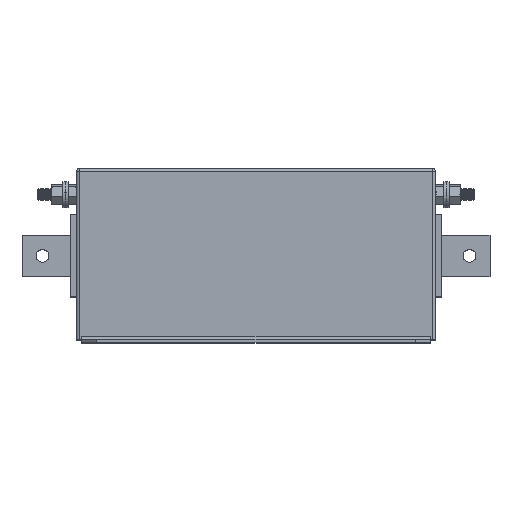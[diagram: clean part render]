
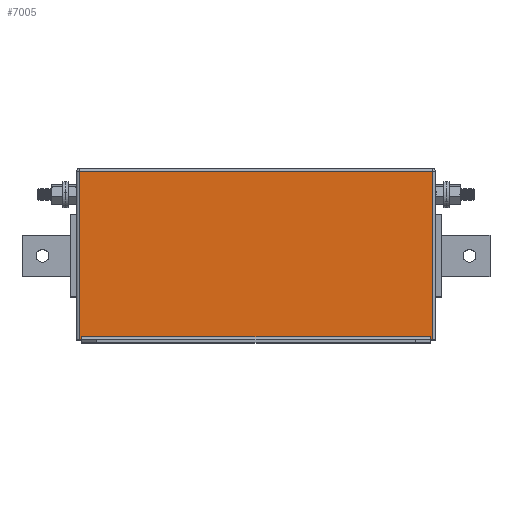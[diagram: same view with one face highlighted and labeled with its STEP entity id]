
A CAD part, top view. The second image highlights one B-rep face of the part: STEP entity #7005.
In plain terms, the highlighted planar face has unit normal (0, 0, 1).
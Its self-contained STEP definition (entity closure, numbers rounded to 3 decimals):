
#66 = DIRECTION ( 'NONE',  ( 1., 0., 0. ) ) ;
#435 = VERTEX_POINT ( 'NONE', #4796 ) ;
#477 = CARTESIAN_POINT ( 'NONE',  ( 0., 167., 0. ) ) ;
#497 = LINE ( 'NONE', #7734, #1102 ) ;
#531 = LINE ( 'NONE', #8329, #2301 ) ;
#807 = CARTESIAN_POINT ( 'NONE',  ( 347., 164., 0. ) ) ;
#889 = ORIENTED_EDGE ( 'NONE', *, *, #4419, .T. ) ;
#1102 = VECTOR ( 'NONE', #6898, 1000. ) ;
#1423 = ORIENTED_EDGE ( 'NONE', *, *, #4421, .T. ) ;
#1464 = CARTESIAN_POINT ( 'NONE',  ( 345., 3., 0. ) ) ;
#1775 = AXIS2_PLACEMENT_3D ( 'NONE', #477, #5393, #3392 ) ;
#1833 = ORIENTED_EDGE ( 'NONE', *, *, #3055, .T. ) ;
#1974 = DIRECTION ( 'NONE',  ( 0., 1., 0. ) ) ;
#1975 = CARTESIAN_POINT ( 'NONE',  ( 345., -3., 0. ) ) ;
#2146 = VECTOR ( 'NONE', #1974, 1000. ) ;
#2150 = ORIENTED_EDGE ( 'NONE', *, *, #7126, .T. ) ;
#2301 = VECTOR ( 'NONE', #7722, 1000. ) ;
#2350 = CARTESIAN_POINT ( 'NONE',  ( 5., 0., 0. ) ) ;
#2845 = CARTESIAN_POINT ( 'NONE',  ( 0., 164., 0. ) ) ;
#2852 = VECTOR ( 'NONE', #9031, 1000. ) ;
#2855 = LINE ( 'NONE', #7823, #7203 ) ;
#2942 = EDGE_CURVE ( 'NONE', #7192, #3177, #3842, .T. ) ;
#3055 = EDGE_CURVE ( 'NONE', #3177, #3759, #497, .T. ) ;
#3137 = EDGE_LOOP ( 'NONE', ( #8244, #3457, #6086, #1423, #2150, #889, #7120, #1833 ) ) ;
#3177 = VERTEX_POINT ( 'NONE', #2350 ) ;
#3234 = CARTESIAN_POINT ( 'NONE',  ( 345., 3., 0. ) ) ;
#3285 = CARTESIAN_POINT ( 'NONE',  ( 0., 0., 0. ) ) ;
#3359 = LINE ( 'NONE', #1975, #2852 ) ;
#3392 = DIRECTION ( 'NONE',  ( 0., -1., 0. ) ) ;
#3457 = ORIENTED_EDGE ( 'NONE', *, *, #6510, .T. ) ;
#3467 = VERTEX_POINT ( 'NONE', #8326 ) ;
#3487 = PLANE ( 'NONE',  #1775 ) ;
#3521 = VERTEX_POINT ( 'NONE', #807 ) ;
#3759 = VERTEX_POINT ( 'NONE', #4572 ) ;
#3842 = LINE ( 'NONE', #3285, #8387 ) ;
#4278 = VERTEX_POINT ( 'NONE', #8197 ) ;
#4419 = EDGE_CURVE ( 'NONE', #435, #7192, #531, .T. ) ;
#4421 = EDGE_CURVE ( 'NONE', #4278, #3521, #4944, .T. ) ;
#4508 = EDGE_CURVE ( 'NONE', #3467, #4278, #2855, .T. ) ;
#4572 = CARTESIAN_POINT ( 'NONE',  ( 5., 3., 0. ) ) ;
#4767 = CARTESIAN_POINT ( 'NONE',  ( 347., 167., 0. ) ) ;
#4796 = CARTESIAN_POINT ( 'NONE',  ( 3., 164., 0. ) ) ;
#4944 = LINE ( 'NONE', #4767, #2146 ) ;
#4987 = DIRECTION ( 'NONE',  ( 1., 0., 0. ) ) ;
#5118 = LINE ( 'NONE', #2845, #8599 ) ;
#5253 = CARTESIAN_POINT ( 'NONE',  ( 3., 0., 0. ) ) ;
#5283 = DIRECTION ( 'NONE',  ( 1., 0., 0. ) ) ;
#5393 = DIRECTION ( 'NONE',  ( 0., 0., -1. ) ) ;
#5517 = VECTOR ( 'NONE', #66, 1000. ) ;
#6086 = ORIENTED_EDGE ( 'NONE', *, *, #4508, .T. ) ;
#6319 = VERTEX_POINT ( 'NONE', #3234 ) ;
#6510 = EDGE_CURVE ( 'NONE', #6319, #3467, #3359, .T. ) ;
#6674 = EDGE_CURVE ( 'NONE', #3759, #6319, #7824, .T. ) ;
#6898 = DIRECTION ( 'NONE',  ( 0., 1., 0. ) ) ;
#7005 = ADVANCED_FACE ( 'NONE', ( #9102 ), #3487, .F. ) ;
#7120 = ORIENTED_EDGE ( 'NONE', *, *, #2942, .T. ) ;
#7126 = EDGE_CURVE ( 'NONE', #3521, #435, #5118, .T. ) ;
#7192 = VERTEX_POINT ( 'NONE', #5253 ) ;
#7203 = VECTOR ( 'NONE', #4987, 1000. ) ;
#7722 = DIRECTION ( 'NONE',  ( 0., -1., 0. ) ) ;
#7734 = CARTESIAN_POINT ( 'NONE',  ( 5., -3., 0. ) ) ;
#7823 = CARTESIAN_POINT ( 'NONE',  ( 0., 0., 0. ) ) ;
#7824 = LINE ( 'NONE', #1464, #5517 ) ;
#8197 = CARTESIAN_POINT ( 'NONE',  ( 347., 0., 0. ) ) ;
#8244 = ORIENTED_EDGE ( 'NONE', *, *, #6674, .T. ) ;
#8326 = CARTESIAN_POINT ( 'NONE',  ( 345., 0., 0. ) ) ;
#8329 = CARTESIAN_POINT ( 'NONE',  ( 3., 167., 0. ) ) ;
#8387 = VECTOR ( 'NONE', #5283, 1000. ) ;
#8502 = DIRECTION ( 'NONE',  ( -1., 0., 0. ) ) ;
#8599 = VECTOR ( 'NONE', #8502, 1000. ) ;
#9031 = DIRECTION ( 'NONE',  ( 0., -1., 0. ) ) ;
#9102 = FACE_OUTER_BOUND ( 'NONE', #3137, .T. ) ;
